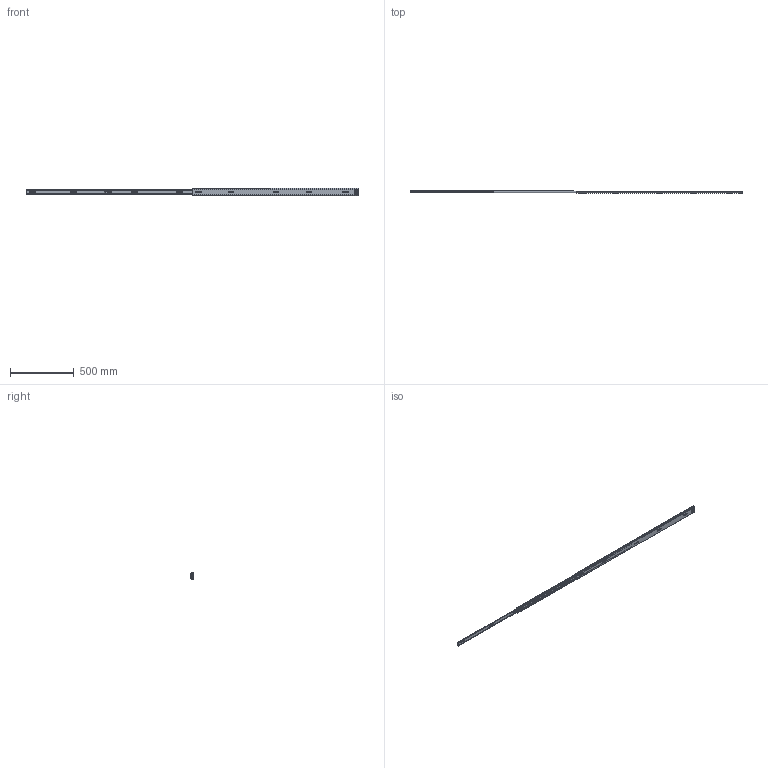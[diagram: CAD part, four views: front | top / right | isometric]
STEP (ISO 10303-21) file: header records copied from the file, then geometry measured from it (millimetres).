
FILE_DESCRIPTION((''),'2;1');
FILE_NAME('1057-02-52_ASM','2023-12-23T',('jishu015'),(''),'PRO/ENGINEER BY PARAMETRIC TECHNOLOGY CORPORATION, 2010280','PRO/ENGINEER BY PARAMETRIC TECHNOLOGY CORPORATION, 2010280','');
FILE_SCHEMA(('CONFIG_CONTROL_DESIGN'));
Products named in the file (14): KP-57-01WEIKE-122_; 1057WEIJIAO_________________; 1057DAZHUJIA-14GE11__; 1057-5-6GANZHU_________________; 1057DAZHUJIA-14GE11___ASM; KP-57-01ZHONGGUI-22____; 57-ZHONGGUIDINWEIJIAN11______; KP-57-01ZHONGGUI-22_____ASM; 1057XIAOZHUJIA_________________; 1057XIAOZHUJIA-14GE22_____ASM; KP-57-01NEIGUI-1822__; 45TIEBACHA_________________; KP-57-01NEIGUI-1822___ASM; 1057-02-52_ASM
Assembly tree (208 placements, depth 3):
  1057-02-52_ASM
    KP-57-01WEIKE-122_
    1057WEIJIAO_________________
    1057DAZHUJIA-14GE11___ASM
      1057DAZHUJIA-14GE11__
      1057-5-6GANZHU_________________  x96
    KP-57-01ZHONGGUI-22_____ASM
      KP-57-01ZHONGGUI-22____
      57-ZHONGGUIDINWEIJIAN11______
    1057XIAOZHUJIA-14GE22_____ASM
      1057XIAOZHUJIA_________________
      1057-5-6GANZHU_________________  x100
    KP-57-01NEIGUI-1822___ASM
      KP-57-01NEIGUI-1822__
      45TIEBACHA_________________
Bounding box: 2600 x 19 x 57.69 mm (x, y, z)
Volume: 572708 mm3; surface area: 672414.7 mm2
Topology: 204 solids, 206 shells, 4783 faces, 13406 edges, 8240 vertices
Faces by surface type: plane 2203, cylinder 1984, sphere 400, bspline 104, cone 86, torus 6
Entity records: 147784 total; most frequent: CARTESIAN_POINT 29776, DIRECTION 25146, ORIENTED_EDGE 24444, EDGE_CURVE 12224, AXIS2_PLACEMENT_3D 8603, VECTOR 7940, LINE 7940, VERTEX_POINT 7850
